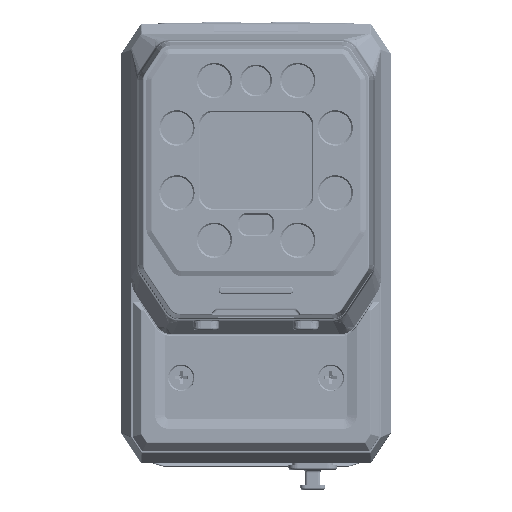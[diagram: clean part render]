
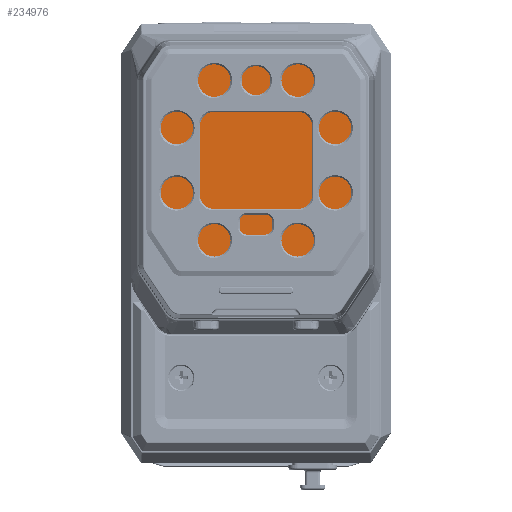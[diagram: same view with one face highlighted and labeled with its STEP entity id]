
A CAD part, front view. The second image highlights one B-rep face of the part: STEP entity #234976.
In plain terms, the highlighted planar face has unit normal (0, -1, 0).
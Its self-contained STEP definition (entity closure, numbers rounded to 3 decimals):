
#234098=DIRECTION('',(-1.,0.,0.));
#234099=VECTOR('',#234098,23.014);
#234100=CARTESIAN_POINT('',(11.509,-20.35,33.363));
#234101=LINE('',#234100,#234099);
#234105=CARTESIAN_POINT('',(11.509,-20.35,32.713));
#234106=DIRECTION('',(0.,-1.,0.));
#234107=DIRECTION('',(0.998,0.,0.063));
#234108=AXIS2_PLACEMENT_3D('',#234105,#234106,#234107);
#234113=CARTESIAN_POINT('',(16.,-20.35,32.996));
#234114=DIRECTION('',(0.,1.,0.));
#234115=DIRECTION('',(0.681,0.,-0.732));
#234116=AXIS2_PLACEMENT_3D('',#234113,#234114,#234115);
#234121=CARTESIAN_POINT('',(19.065,-20.35,29.702));
#234122=DIRECTION('',(0.,-1.,0.));
#234123=DIRECTION('',(0.832,0.,0.555));
#234124=AXIS2_PLACEMENT_3D('',#234121,#234122,#234123);
#234129=DIRECTION('',(-0.555,0.,0.832));
#234130=VECTOR('',#234129,1.71);
#234131=CARTESIAN_POINT('',(20.555,-20.35,28.64));
#234132=LINE('',#234131,#234130);
#234136=CARTESIAN_POINT('',(20.25,-20.35,28.436));
#234137=DIRECTION('',(0.,-1.,0.));
#234138=DIRECTION('',(1.,0.,0.));
#234139=AXIS2_PLACEMENT_3D('',#234136,#234137,#234138);
#234144=DIRECTION('',(0.,0.,1.));
#234145=VECTOR('',#234144,29.445);
#234146=CARTESIAN_POINT('',(20.617,-20.35,-1.009));
#234147=LINE('',#234146,#234145);
#234151=CARTESIAN_POINT('',(19.967,-20.35,-1.009));
#234152=DIRECTION('',(0.,-1.,0.));
#234153=DIRECTION('',(0.063,0.,-0.998));
#234154=AXIS2_PLACEMENT_3D('',#234151,#234152,#234153);
#234159=CARTESIAN_POINT('',(20.25,-20.35,-5.5));
#234160=DIRECTION('',(0.,1.,0.));
#234161=DIRECTION('',(-0.266,0.,-0.964));
#234162=AXIS2_PLACEMENT_3D('',#234159,#234160,#234161);
#234167=CARTESIAN_POINT('',(19.051,-20.35,-9.837));
#234168=DIRECTION('',(0.,-1.,0.));
#234169=DIRECTION('',(0.832,0.,-0.555));
#234170=AXIS2_PLACEMENT_3D('',#234167,#234168,#234169);
#234175=DIRECTION('',(0.555,0.,0.832));
#234176=VECTOR('',#234175,7.255);
#234177=CARTESIAN_POINT('',(15.567,-20.35,-16.234));
#234178=LINE('',#234177,#234176);
#234182=CARTESIAN_POINT('',(15.262,-20.35,-16.03));
#234183=DIRECTION('',(0.,-1.,0.));
#234184=DIRECTION('',(0.,0.,-1.));
#234185=AXIS2_PLACEMENT_3D('',#234182,#234183,#234184);
#234190=DIRECTION('',(1.,0.,0.));
#234191=VECTOR('',#234190,30.52);
#234192=CARTESIAN_POINT('',(-15.258,-20.35,-16.397));
#234193=LINE('',#234192,#234191);
#234197=CARTESIAN_POINT('',(-15.258,-20.35,-16.03));
#234198=DIRECTION('',(0.,-1.,0.));
#234199=DIRECTION('',(-0.832,0.,-0.555));
#234200=AXIS2_PLACEMENT_3D('',#234197,#234198,#234199);
#234205=DIRECTION('',(0.555,0.,-0.832));
#234206=VECTOR('',#234205,7.255);
#234207=CARTESIAN_POINT('',(-19.589,-20.35,-10.198));
#234208=LINE('',#234207,#234206);
#234212=CARTESIAN_POINT('',(-19.048,-20.35,-9.837));
#234213=DIRECTION('',(0.,-1.,0.));
#234214=DIRECTION('',(-0.266,0.,0.964));
#234215=AXIS2_PLACEMENT_3D('',#234212,#234213,#234214);
#234220=CARTESIAN_POINT('',(-20.247,-20.35,-5.5));
#234221=DIRECTION('',(0.,1.,0.));
#234222=DIRECTION('',(0.063,0.,0.998));
#234223=AXIS2_PLACEMENT_3D('',#234220,#234221,#234222);
#234228=CARTESIAN_POINT('',(-19.963,-20.35,-1.009));
#234229=DIRECTION('',(0.,-1.,0.));
#234230=DIRECTION('',(-1.,0.,0.));
#234231=AXIS2_PLACEMENT_3D('',#234228,#234229,#234230);
#234236=DIRECTION('',(0.,0.,-1.));
#234237=VECTOR('',#234236,29.445);
#234238=CARTESIAN_POINT('',(-20.613,-20.35,28.436));
#234239=LINE('',#234238,#234237);
#234243=CARTESIAN_POINT('',(-20.247,-20.35,28.436));
#234244=DIRECTION('',(0.,-1.,0.));
#234245=DIRECTION('',(-0.832,0.,0.555));
#234246=AXIS2_PLACEMENT_3D('',#234243,#234244,#234245);
#234251=DIRECTION('',(-0.555,0.,-0.832));
#234252=VECTOR('',#234251,1.71);
#234253=CARTESIAN_POINT('',(-19.603,-20.35,30.063));
#234254=LINE('',#234253,#234252);
#234258=CARTESIAN_POINT('',(-19.062,-20.35,29.702));
#234259=DIRECTION('',(0.,-1.,0.));
#234260=DIRECTION('',(0.681,0.,0.732));
#234261=AXIS2_PLACEMENT_3D('',#234258,#234259,#234260);
#234266=CARTESIAN_POINT('',(-15.997,-20.35,32.996));
#234267=DIRECTION('',(0.,1.,0.));
#234268=DIRECTION('',(0.998,0.,-0.063));
#234269=AXIS2_PLACEMENT_3D('',#234266,#234267,#234268);
#234274=CARTESIAN_POINT('',(-11.506,-20.35,32.713));
#234275=DIRECTION('',(0.,-1.,0.));
#234276=DIRECTION('',(0.,0.,1.));
#234277=AXIS2_PLACEMENT_3D('',#234274,#234275,#234276);
#234330=CARTESIAN_POINT('',(11.509,-20.35,33.363));
#234331=CARTESIAN_POINT('',(-11.506,-20.35,33.363));
#234332=VERTEX_POINT('',#234330);
#234333=VERTEX_POINT('',#234331);
#234334=CARTESIAN_POINT('',(-12.154,-20.35,32.754));
#234335=VERTEX_POINT('',#234334);
#234336=CARTESIAN_POINT('',(-18.619,-20.35,30.178));
#234337=VERTEX_POINT('',#234336);
#234338=CARTESIAN_POINT('',(-19.603,-20.35,30.063));
#234339=VERTEX_POINT('',#234338);
#234340=CARTESIAN_POINT('',(-20.552,-20.35,28.64));
#234341=VERTEX_POINT('',#234340);
#234342=CARTESIAN_POINT('',(-20.613,-20.35,28.436));
#234343=VERTEX_POINT('',#234342);
#234344=CARTESIAN_POINT('',(-20.613,-20.35,-1.009));
#234345=VERTEX_POINT('',#234344);
#234346=CARTESIAN_POINT('',(-20.004,-20.35,-1.658));
#234347=VERTEX_POINT('',#234346);
#234348=CARTESIAN_POINT('',(-19.221,-20.35,-9.211));
#234349=VERTEX_POINT('',#234348);
#234350=CARTESIAN_POINT('',(-19.589,-20.35,-10.198));
#234351=VERTEX_POINT('',#234350);
#234352=CARTESIAN_POINT('',(-15.563,-20.35,-16.234));
#234353=VERTEX_POINT('',#234352);
#234354=CARTESIAN_POINT('',(-15.258,-20.35,-16.397));
#234355=VERTEX_POINT('',#234354);
#234356=CARTESIAN_POINT('',(15.262,-20.35,-16.397));
#234357=VERTEX_POINT('',#234356);
#234358=CARTESIAN_POINT('',(15.567,-20.35,-16.234));
#234359=VERTEX_POINT('',#234358);
#234360=CARTESIAN_POINT('',(19.592,-20.35,-10.198));
#234361=VERTEX_POINT('',#234360);
#234362=CARTESIAN_POINT('',(19.224,-20.35,-9.211));
#234363=VERTEX_POINT('',#234362);
#234364=CARTESIAN_POINT('',(20.008,-20.35,-1.658));
#234365=VERTEX_POINT('',#234364);
#234366=CARTESIAN_POINT('',(20.617,-20.35,-1.009));
#234367=VERTEX_POINT('',#234366);
#234368=CARTESIAN_POINT('',(20.617,-20.35,28.436));
#234369=VERTEX_POINT('',#234368);
#234370=CARTESIAN_POINT('',(20.555,-20.35,28.64));
#234371=VERTEX_POINT('',#234370);
#234372=CARTESIAN_POINT('',(19.606,-20.35,30.063));
#234373=VERTEX_POINT('',#234372);
#234374=CARTESIAN_POINT('',(18.623,-20.35,30.178));
#234375=VERTEX_POINT('',#234374);
#234376=CARTESIAN_POINT('',(12.158,-20.35,32.754));
#234377=VERTEX_POINT('',#234376);
#234945=CARTESIAN_POINT('',(0.,-20.35,0.));
#234946=DIRECTION('',(0.,-1.,0.));
#234947=DIRECTION('',(1.,0.,0.));
#234948=AXIS2_PLACEMENT_3D('',#234945,#234946,#234947);
#234949=PLANE('',#234948);
#234950=ORIENTED_EDGE('',*,*,#234449,.F.);
#234951=ORIENTED_EDGE('',*,*,#234471,.F.);
#234952=ORIENTED_EDGE('',*,*,#234492,.F.);
#234953=ORIENTED_EDGE('',*,*,#234513,.F.);
#234954=ORIENTED_EDGE('',*,*,#234534,.F.);
#234955=ORIENTED_EDGE('',*,*,#234555,.F.);
#234956=ORIENTED_EDGE('',*,*,#234576,.F.);
#234957=ORIENTED_EDGE('',*,*,#234597,.F.);
#234958=ORIENTED_EDGE('',*,*,#234618,.F.);
#234959=ORIENTED_EDGE('',*,*,#234639,.F.);
#234960=ORIENTED_EDGE('',*,*,#234660,.F.);
#234961=ORIENTED_EDGE('',*,*,#234681,.F.);
#234962=ORIENTED_EDGE('',*,*,#234702,.F.);
#234963=ORIENTED_EDGE('',*,*,#234723,.F.);
#234964=ORIENTED_EDGE('',*,*,#234744,.F.);
#234965=ORIENTED_EDGE('',*,*,#234765,.F.);
#234966=ORIENTED_EDGE('',*,*,#234786,.F.);
#234967=ORIENTED_EDGE('',*,*,#234807,.F.);
#234968=ORIENTED_EDGE('',*,*,#234828,.F.);
#234969=ORIENTED_EDGE('',*,*,#234849,.F.);
#234970=ORIENTED_EDGE('',*,*,#234870,.F.);
#234971=ORIENTED_EDGE('',*,*,#234891,.F.);
#234972=ORIENTED_EDGE('',*,*,#234912,.F.);
#234973=ORIENTED_EDGE('',*,*,#234932,.F.);
#234974=EDGE_LOOP('',(#234950,#234951,#234952,#234953,#234954,#234955,#234956,
#234957,#234958,#234959,#234960,#234961,#234962,#234963,#234964,#234965,#234966,
#234967,#234968,#234969,#234970,#234971,#234972,#234973));
#234975=FACE_OUTER_BOUND('',#234974,.F.);
#234109=CIRCLE('',#234108,0.65);
#234117=CIRCLE('',#234116,3.85);
#234125=CIRCLE('',#234124,0.65);
#234140=CIRCLE('',#234139,0.367);
#234155=CIRCLE('',#234154,0.65);
#234163=CIRCLE('',#234162,3.85);
#234171=CIRCLE('',#234170,0.65);
#234186=CIRCLE('',#234185,0.367);
#234201=CIRCLE('',#234200,0.367);
#234216=CIRCLE('',#234215,0.65);
#234224=CIRCLE('',#234223,3.85);
#234232=CIRCLE('',#234231,0.65);
#234247=CIRCLE('',#234246,0.367);
#234262=CIRCLE('',#234261,0.65);
#234270=CIRCLE('',#234269,3.85);
#234278=CIRCLE('',#234277,0.65);
#234449=EDGE_CURVE('',#234332,#234333,#234101,.T.);
#234471=EDGE_CURVE('',#234377,#234332,#234109,.T.);
#234492=EDGE_CURVE('',#234375,#234377,#234117,.T.);
#234513=EDGE_CURVE('',#234373,#234375,#234125,.T.);
#234534=EDGE_CURVE('',#234371,#234373,#234132,.T.);
#234555=EDGE_CURVE('',#234369,#234371,#234140,.T.);
#234576=EDGE_CURVE('',#234367,#234369,#234147,.T.);
#234597=EDGE_CURVE('',#234365,#234367,#234155,.T.);
#234618=EDGE_CURVE('',#234363,#234365,#234163,.T.);
#234639=EDGE_CURVE('',#234361,#234363,#234171,.T.);
#234660=EDGE_CURVE('',#234359,#234361,#234178,.T.);
#234681=EDGE_CURVE('',#234357,#234359,#234186,.T.);
#234702=EDGE_CURVE('',#234355,#234357,#234193,.T.);
#234723=EDGE_CURVE('',#234353,#234355,#234201,.T.);
#234744=EDGE_CURVE('',#234351,#234353,#234208,.T.);
#234765=EDGE_CURVE('',#234349,#234351,#234216,.T.);
#234786=EDGE_CURVE('',#234347,#234349,#234224,.T.);
#234807=EDGE_CURVE('',#234345,#234347,#234232,.T.);
#234828=EDGE_CURVE('',#234343,#234345,#234239,.T.);
#234849=EDGE_CURVE('',#234341,#234343,#234247,.T.);
#234870=EDGE_CURVE('',#234339,#234341,#234254,.T.);
#234891=EDGE_CURVE('',#234337,#234339,#234262,.T.);
#234912=EDGE_CURVE('',#234335,#234337,#234270,.T.);
#234932=EDGE_CURVE('',#234333,#234335,#234278,.T.);
#234976=ADVANCED_FACE('',(#234975),#234949,.T.);
